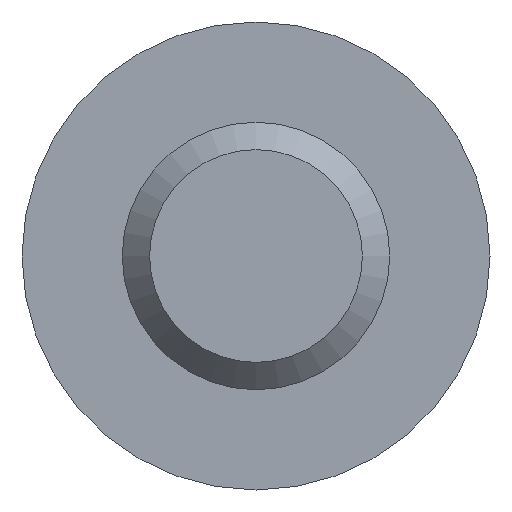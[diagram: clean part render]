
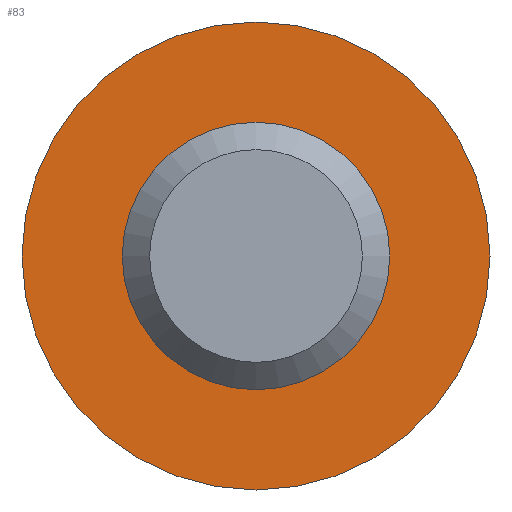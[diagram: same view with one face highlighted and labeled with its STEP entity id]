
A CAD part, front view. The second image highlights one B-rep face of the part: STEP entity #83.
In plain terms, the highlighted planar face has unit normal (0, -1, 0).
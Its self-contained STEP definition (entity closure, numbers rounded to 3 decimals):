
#83 = ADVANCED_FACE( '', ( #120, #121 ), #122, .F. );
#120 = FACE_BOUND( '', #178, .T. );
#121 = FACE_OUTER_BOUND( '', #179, .T. );
#122 = PLANE( '', #180 );
#178 = EDGE_LOOP( '', ( #263 ) );
#179 = EDGE_LOOP( '', ( #264 ) );
#180 = AXIS2_PLACEMENT_3D( '', #265, #266, #267 );
#263 = ORIENTED_EDGE( '', *, *, #363, .F. );
#264 = ORIENTED_EDGE( '', *, *, #364, .T. );
#265 = CARTESIAN_POINT( '', ( 5.25, 0., 0. ) );
#266 = DIRECTION( '', ( 0., 1., 0. ) );
#267 = DIRECTION( '', ( 0., 0., 1. ) );
#363 = EDGE_CURVE( '', #412, #412, #413, .F. );
#364 = EDGE_CURVE( '', #414, #414, #415, .T. );
#412 = VERTEX_POINT( '', #481 );
#413 = CIRCLE( '', #482, 3. );
#414 = VERTEX_POINT( '', #483 );
#415 = CIRCLE( '', #484, 5.25 );
#481 = CARTESIAN_POINT( '', ( 0., 0., 3. ) );
#482 = AXIS2_PLACEMENT_3D( '', #545, #546, #547 );
#483 = CARTESIAN_POINT( '', ( 0., 0., -5.25 ) );
#484 = AXIS2_PLACEMENT_3D( '', #548, #549, #550 );
#545 = CARTESIAN_POINT( '', ( 0., 0., 0. ) );
#546 = DIRECTION( '', ( 0., 1., 0. ) );
#547 = DIRECTION( '', ( 0., 0., 1. ) );
#548 = CARTESIAN_POINT( '', ( 0., 0., 0. ) );
#549 = DIRECTION( '', ( 0., -1., 0. ) );
#550 = DIRECTION( '', ( 0., 0., -1. ) );
